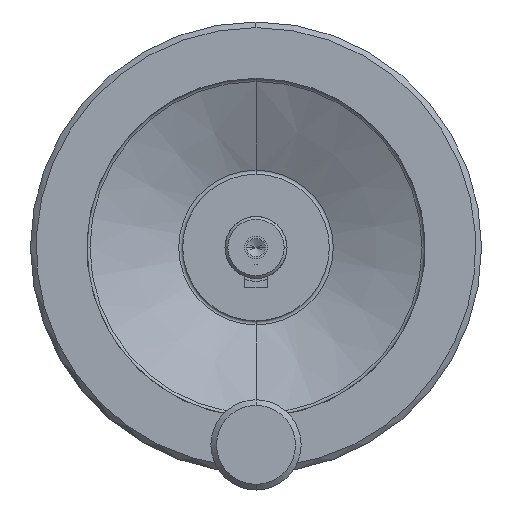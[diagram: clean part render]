
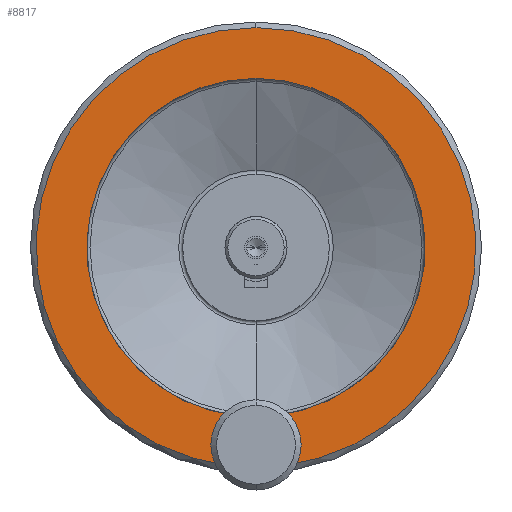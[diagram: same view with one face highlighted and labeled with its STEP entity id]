
A CAD part, left-side view. The second image highlights one B-rep face of the part: STEP entity #8817.
In plain terms, the highlighted planar face has unit normal (-1, 0, 0) as drawn and (1, 0, 0) by its records, which use the part's own axes.
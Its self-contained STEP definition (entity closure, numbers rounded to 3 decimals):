
#8114=CARTESIAN_POINT('',(26.,0.,0.));
#8115=DIRECTION('',(1.,0.,0.));
#8116=DIRECTION('',(0.,0.993,0.121));
#8117=AXIS2_PLACEMENT_3D('',#8114,#8115,#8116);
#8182=CARTESIAN_POINT('',(26.,35.,0.));
#8183=DIRECTION('',(1.,0.,0.));
#8184=DIRECTION('',(0.,0.619,0.785));
#8185=AXIS2_PLACEMENT_3D('',#8182,#8183,#8184);
#8187=CARTESIAN_POINT('',(26.,0.,0.));
#8188=DIRECTION('',(1.,0.,0.));
#8189=DIRECTION('',(0.,0.995,0.102));
#8190=AXIS2_PLACEMENT_3D('',#8187,#8188,#8189);
#8192=CARTESIAN_POINT('',(26.,0.,0.));
#8193=DIRECTION('',(-1.,0.,0.));
#8194=DIRECTION('',(0.,0.995,-0.102));
#8195=AXIS2_PLACEMENT_3D('',#8192,#8193,#8194);
#8197=CARTESIAN_POINT('',(26.,35.,0.));
#8198=DIRECTION('',(1.,0.,0.));
#8199=DIRECTION('',(0.,-0.86,-0.511));
#8200=AXIS2_PLACEMENT_3D('',#8197,#8198,#8199);
#8269=CARTESIAN_POINT('',(26.,0.,0.));
#8270=DIRECTION('',(-1.,0.,0.));
#8271=DIRECTION('',(0.,0.993,-0.121));
#8272=AXIS2_PLACEMENT_3D('',#8269,#8270,#8271);
#8415=CARTESIAN_POINT('',(26.,-30.,0.));
#8416=VERTEX_POINT('',#8415);
#8441=CARTESIAN_POINT('',(26.,-39.,0.));
#8442=VERTEX_POINT('',#8441);
#8467=CARTESIAN_POINT('',(26.,38.714,4.712));
#8468=CARTESIAN_POINT('',(26.,29.843,3.067));
#8469=VERTEX_POINT('',#8467);
#8470=VERTEX_POINT('',#8468);
#8471=CARTESIAN_POINT('',(26.,29.843,-3.067));
#8472=CARTESIAN_POINT('',(26.,38.714,-4.712));
#8473=VERTEX_POINT('',#8471);
#8474=VERTEX_POINT('',#8472);
#8801=CARTESIAN_POINT('',(26.,0.,0.));
#8802=DIRECTION('',(1.,0.,0.));
#8803=DIRECTION('',(0.,-1.,0.));
#8804=AXIS2_PLACEMENT_3D('',#8801,#8802,#8803);
#8805=PLANE('',#8804);
#8807=ORIENTED_EDGE('',*,*,#8806,.T.);
#8808=ORIENTED_EDGE('',*,*,#8781,.T.);
#8809=ORIENTED_EDGE('',*,*,#8792,.F.);
#8811=ORIENTED_EDGE('',*,*,#8810,.T.);
#8813=ORIENTED_EDGE('',*,*,#8812,.T.);
#8814=ORIENTED_EDGE('',*,*,#8728,.F.);
#8815=EDGE_LOOP('',(#8807,#8808,#8809,#8811,#8813,#8814));
#8816=FACE_OUTER_BOUND('',#8815,.F.);
#8817=ADVANCED_FACE('',(#8816),#8805,.T.);
#8118=CIRCLE('',#8117,39.);
#8186=CIRCLE('',#8185,6.);
#8191=CIRCLE('',#8190,30.);
#8196=CIRCLE('',#8195,30.);
#8201=CIRCLE('',#8200,6.);
#8273=CIRCLE('',#8272,39.);
#8728=EDGE_CURVE('',#8469,#8442,#8118,.T.);
#8781=EDGE_CURVE('',#8470,#8416,#8191,.T.);
#8792=EDGE_CURVE('',#8473,#8416,#8196,.T.);
#8806=EDGE_CURVE('',#8469,#8470,#8186,.T.);
#8810=EDGE_CURVE('',#8473,#8474,#8201,.T.);
#8812=EDGE_CURVE('',#8474,#8442,#8273,.T.);
